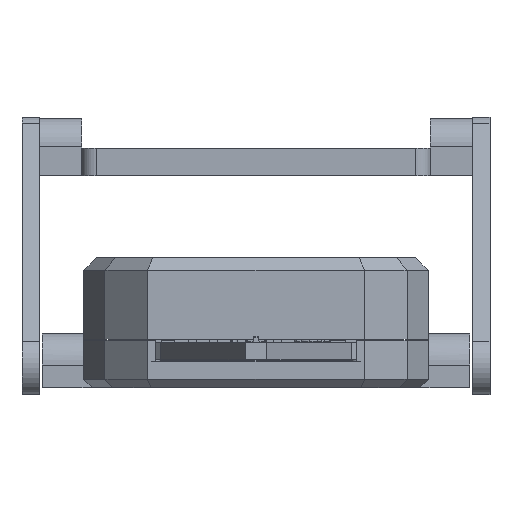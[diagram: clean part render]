
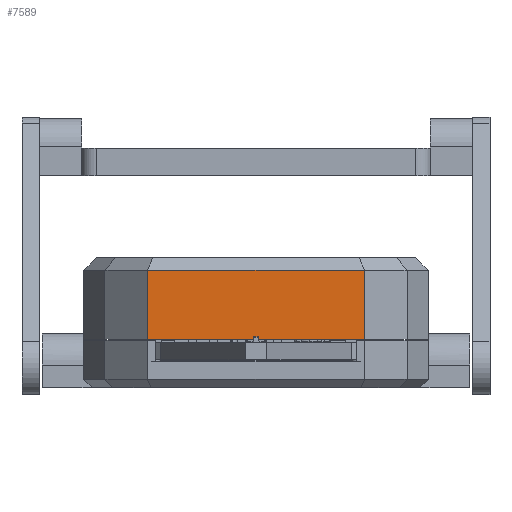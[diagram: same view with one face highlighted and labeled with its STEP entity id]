
A CAD part, front view. The second image highlights one B-rep face of the part: STEP entity #7589.
In plain terms, the highlighted planar face has unit normal (0, -1, 0).
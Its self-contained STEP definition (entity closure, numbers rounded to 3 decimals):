
#7589 = ADVANCED_FACE('',(#7590),#7604,.F.);
#7590 = FACE_BOUND('',#7591,.F.);
#7591 = EDGE_LOOP('',(#7592,#7627,#7655,#7683));
#7592 = ORIENTED_EDGE('',*,*,#7593,.T.);
#7593 = EDGE_CURVE('',#7594,#7596,#7598,.T.);
#7594 = VERTEX_POINT('',#7595);
#7595 = CARTESIAN_POINT('',(-10.2,96.,0.3));
#7596 = VERTEX_POINT('',#7597);
#7597 = CARTESIAN_POINT('',(-10.2,96.,6.8));
#7598 = SURFACE_CURVE('',#7599,(#7603,#7615),.PCURVE_S1.);
#7599 = LINE('',#7600,#7601);
#7600 = CARTESIAN_POINT('',(-10.2,96.,0.3));
#7601 = VECTOR('',#7602,1.);
#7602 = DIRECTION('',(0.,0.,1.));
#7603 = PCURVE('',#7604,#7609);
#7604 = PLANE('',#7605);
#7605 = AXIS2_PLACEMENT_3D('',#7606,#7607,#7608);
#7606 = CARTESIAN_POINT('',(-10.2,96.,0.3));
#7607 = DIRECTION('',(0.,1.,0.));
#7608 = DIRECTION('',(1.,0.,0.));
#7609 = DEFINITIONAL_REPRESENTATION('',(#7610),#7614);
#7610 = LINE('',#7611,#7612);
#7611 = CARTESIAN_POINT('',(0.,0.));
#7612 = VECTOR('',#7613,1.);
#7613 = DIRECTION('',(0.,-1.));
#7614 = ( GEOMETRIC_REPRESENTATION_CONTEXT(2) 
PARAMETRIC_REPRESENTATION_CONTEXT() REPRESENTATION_CONTEXT('2D SPACE',''
  ) );
#7615 = PCURVE('',#7616,#7621);
#7616 = PLANE('',#7617);
#7617 = AXIS2_PLACEMENT_3D('',#7618,#7619,#7620);
#7618 = CARTESIAN_POINT('',(-14.2,100.,0.3));
#7619 = DIRECTION('',(0.707,0.707,-0.));
#7620 = DIRECTION('',(0.707,-0.707,0.));
#7621 = DEFINITIONAL_REPRESENTATION('',(#7622),#7626);
#7622 = LINE('',#7623,#7624);
#7623 = CARTESIAN_POINT('',(5.657,0.));
#7624 = VECTOR('',#7625,1.);
#7625 = DIRECTION('',(0.,-1.));
#7626 = ( GEOMETRIC_REPRESENTATION_CONTEXT(2) 
PARAMETRIC_REPRESENTATION_CONTEXT() REPRESENTATION_CONTEXT('2D SPACE',''
  ) );
#7627 = ORIENTED_EDGE('',*,*,#7628,.T.);
#7628 = EDGE_CURVE('',#7596,#7629,#7631,.T.);
#7629 = VERTEX_POINT('',#7630);
#7630 = CARTESIAN_POINT('',(10.2,96.,6.8));
#7631 = SURFACE_CURVE('',#7632,(#7636,#7643),.PCURVE_S1.);
#7632 = LINE('',#7633,#7634);
#7633 = CARTESIAN_POINT('',(-10.2,96.,6.8));
#7634 = VECTOR('',#7635,1.);
#7635 = DIRECTION('',(1.,0.,0.));
#7636 = PCURVE('',#7604,#7637);
#7637 = DEFINITIONAL_REPRESENTATION('',(#7638),#7642);
#7638 = LINE('',#7639,#7640);
#7639 = CARTESIAN_POINT('',(0.,-6.5));
#7640 = VECTOR('',#7641,1.);
#7641 = DIRECTION('',(1.,0.));
#7642 = ( GEOMETRIC_REPRESENTATION_CONTEXT(2) 
PARAMETRIC_REPRESENTATION_CONTEXT() REPRESENTATION_CONTEXT('2D SPACE',''
  ) );
#7643 = PCURVE('',#7644,#7649);
#7644 = PLANE('',#7645);
#7645 = AXIS2_PLACEMENT_3D('',#7646,#7647,#7648);
#7646 = CARTESIAN_POINT('',(-10.2,96.6,7.4));
#7647 = DIRECTION('',(0.,0.707,-0.707));
#7648 = DIRECTION('',(-1.,-0.,-0.));
#7649 = DEFINITIONAL_REPRESENTATION('',(#7650),#7654);
#7650 = LINE('',#7651,#7652);
#7651 = CARTESIAN_POINT('',(-0.,-0.849));
#7652 = VECTOR('',#7653,1.);
#7653 = DIRECTION('',(-1.,0.));
#7654 = ( GEOMETRIC_REPRESENTATION_CONTEXT(2) 
PARAMETRIC_REPRESENTATION_CONTEXT() REPRESENTATION_CONTEXT('2D SPACE',''
  ) );
#7655 = ORIENTED_EDGE('',*,*,#7656,.F.);
#7656 = EDGE_CURVE('',#7657,#7629,#7659,.T.);
#7657 = VERTEX_POINT('',#7658);
#7658 = CARTESIAN_POINT('',(10.2,96.,0.3));
#7659 = SURFACE_CURVE('',#7660,(#7664,#7671),.PCURVE_S1.);
#7660 = LINE('',#7661,#7662);
#7661 = CARTESIAN_POINT('',(10.2,96.,0.3));
#7662 = VECTOR('',#7663,1.);
#7663 = DIRECTION('',(0.,0.,1.));
#7664 = PCURVE('',#7604,#7665);
#7665 = DEFINITIONAL_REPRESENTATION('',(#7666),#7670);
#7666 = LINE('',#7667,#7668);
#7667 = CARTESIAN_POINT('',(20.4,0.));
#7668 = VECTOR('',#7669,1.);
#7669 = DIRECTION('',(0.,-1.));
#7670 = ( GEOMETRIC_REPRESENTATION_CONTEXT(2) 
PARAMETRIC_REPRESENTATION_CONTEXT() REPRESENTATION_CONTEXT('2D SPACE',''
  ) );
#7671 = PCURVE('',#7672,#7677);
#7672 = PLANE('',#7673);
#7673 = AXIS2_PLACEMENT_3D('',#7674,#7675,#7676);
#7674 = CARTESIAN_POINT('',(10.2,96.,0.3));
#7675 = DIRECTION('',(-0.707,0.707,0.));
#7676 = DIRECTION('',(0.707,0.707,0.));
#7677 = DEFINITIONAL_REPRESENTATION('',(#7678),#7682);
#7678 = LINE('',#7679,#7680);
#7679 = CARTESIAN_POINT('',(0.,0.));
#7680 = VECTOR('',#7681,1.);
#7681 = DIRECTION('',(0.,-1.));
#7682 = ( GEOMETRIC_REPRESENTATION_CONTEXT(2) 
PARAMETRIC_REPRESENTATION_CONTEXT() REPRESENTATION_CONTEXT('2D SPACE',''
  ) );
#7683 = ORIENTED_EDGE('',*,*,#7684,.F.);
#7684 = EDGE_CURVE('',#7594,#7657,#7685,.T.);
#7685 = SURFACE_CURVE('',#7686,(#7690,#7697),.PCURVE_S1.);
#7686 = LINE('',#7687,#7688);
#7687 = CARTESIAN_POINT('',(-10.2,96.,0.3));
#7688 = VECTOR('',#7689,1.);
#7689 = DIRECTION('',(1.,0.,0.));
#7690 = PCURVE('',#7604,#7691);
#7691 = DEFINITIONAL_REPRESENTATION('',(#7692),#7696);
#7692 = LINE('',#7693,#7694);
#7693 = CARTESIAN_POINT('',(0.,0.));
#7694 = VECTOR('',#7695,1.);
#7695 = DIRECTION('',(1.,0.));
#7696 = ( GEOMETRIC_REPRESENTATION_CONTEXT(2) 
PARAMETRIC_REPRESENTATION_CONTEXT() REPRESENTATION_CONTEXT('2D SPACE',''
  ) );
#7697 = PCURVE('',#7698,#7703);
#7698 = PLANE('',#7699);
#7699 = AXIS2_PLACEMENT_3D('',#7700,#7701,#7702);
#7700 = CARTESIAN_POINT('',(0.,121.255,0.3));
#7701 = DIRECTION('',(0.,0.,1.));
#7702 = DIRECTION('',(1.,0.,-0.));
#7703 = DEFINITIONAL_REPRESENTATION('',(#7704),#7708);
#7704 = LINE('',#7705,#7706);
#7705 = CARTESIAN_POINT('',(-10.2,-25.255));
#7706 = VECTOR('',#7707,1.);
#7707 = DIRECTION('',(1.,0.));
#7708 = ( GEOMETRIC_REPRESENTATION_CONTEXT(2) 
PARAMETRIC_REPRESENTATION_CONTEXT() REPRESENTATION_CONTEXT('2D SPACE',''
  ) );
